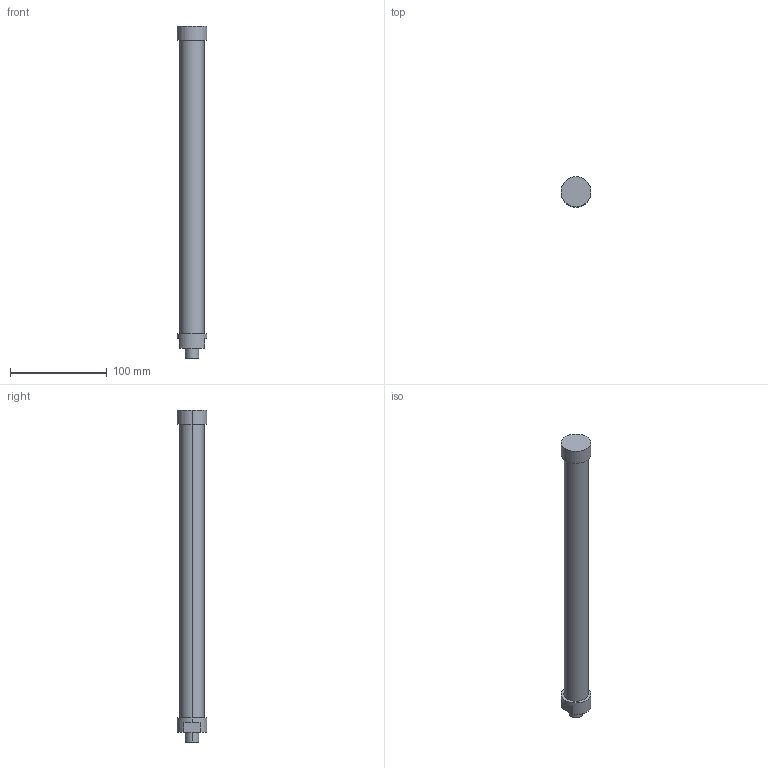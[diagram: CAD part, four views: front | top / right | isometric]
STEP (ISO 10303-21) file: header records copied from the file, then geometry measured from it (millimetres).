
FILE_DESCRIPTION(('STEP AP214'),'1');
FILE_NAME('C:/Users/Autocad/Desktop/L344-C120S1-FN.stp','2014-02-10T10:51:50',(' '),(' '),'Spatial InterOp 3D',' ',' ');
FILE_SCHEMA(('automotive_design'));
Length unit declared in the file: metre
Products named in the file (2): 1; 2
Bounding box: 31 x 31 x 344 mm (x, y, z)
Volume: 172439.7 mm3; surface area: 29843 mm2
Topology: 1 solids, 4 shells, 23 faces, 54 edges, 40 vertices
Faces by surface type: cylinder 12, plane 11
Entity records: 916 total; most frequent: DIRECTION 136, CARTESIAN_POINT 119, ORIENTED_EDGE 96, AXIS2_PLACEMENT_3D 57, EDGE_CURVE 54, VERTEX_POINT 40, CIRCLE 32, EDGE_LOOP 28
